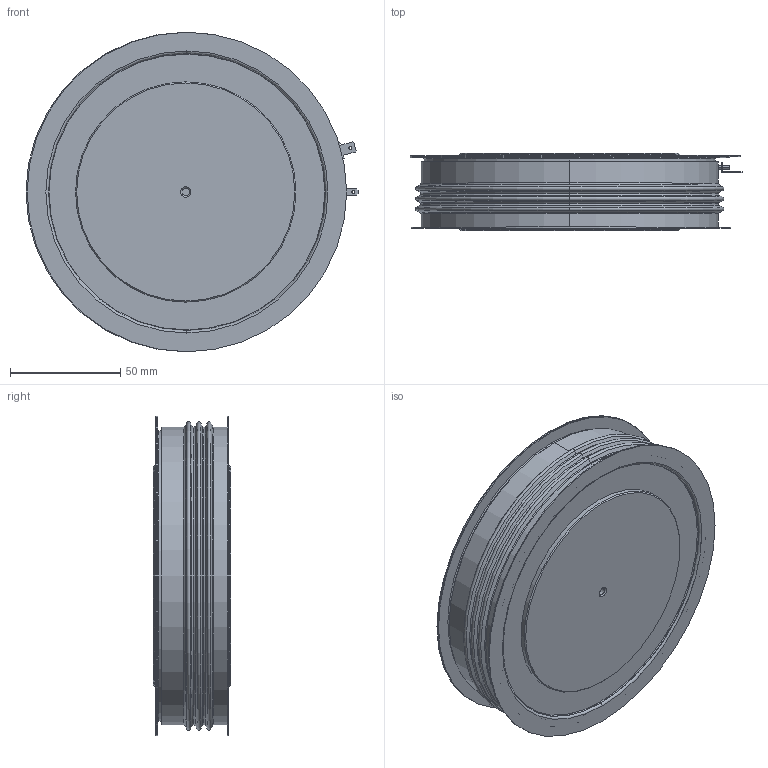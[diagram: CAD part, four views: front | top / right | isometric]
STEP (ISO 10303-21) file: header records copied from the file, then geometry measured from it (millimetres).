
FILE_DESCRIPTION (( 'STEP AP214' ), '1' );
FILE_NAME ('PT94.STEP', '2021-04-09T06:16:15', ( '' ), ( '' ), 'SwSTEP 2.0', 'SolidWorks 2018', '' );
FILE_SCHEMA (( 'AUTOMOTIVE_DESIGN' ));
Length unit declared in the file: millimetre
Products named in the file (1): PT94
Bounding box: 150.68 x 35 x 145 mm (x, y, z)
Volume: 312228.1 mm3; surface area: 105400.7 mm2
Topology: 7 solids, 7 shells, 157 faces, 336 edges, 202 vertices
Faces by surface type: cylinder 52, plane 47, torus 38, cone 20
Entity records: 6191 total; most frequent: DIRECTION 840, CARTESIAN_POINT 796, ORIENTED_EDGE 672, AXIS2_PLACEMENT_3D 352, EDGE_CURVE 336, VERTEX_POINT 202, CIRCLE 194, EDGE_LOOP 182
